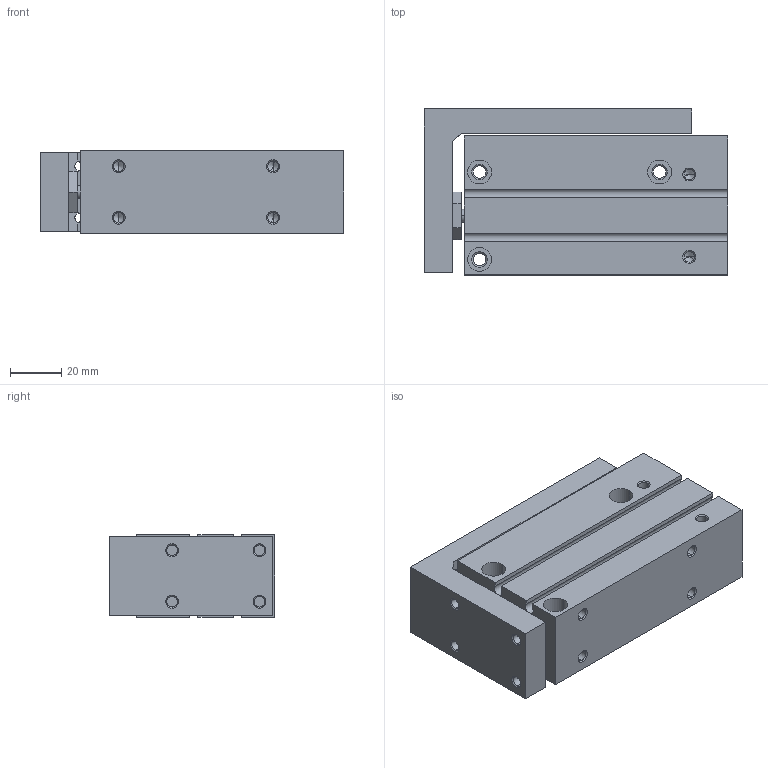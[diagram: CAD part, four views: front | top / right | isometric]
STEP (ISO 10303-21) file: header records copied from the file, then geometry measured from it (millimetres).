
FILE_DESCRIPTION (( 'STEP AP203' ), '1' );
FILE_NAME ('CXH20-50.STEP', '2020-04-16T18:30:55', ( '' ), ( '' ), 'SwSTEP 2.0', 'SolidWorks 2019', '' );
FILE_SCHEMA (( 'CONFIG_CONTROL_DESIGN' ));
Length unit declared in the file: millimetre
Products named in the file (1): CXH20-50
Bounding box: 118 x 64.5 x 32 mm (x, y, z)
Volume: 198288.4 mm3; surface area: 50086.3 mm2
Topology: 2 solids, 2 shells, 218 faces, 519 edges, 300 vertices
Faces by surface type: cone 94, cylinder 80, plane 44
Entity records: 6288 total; most frequent: DIRECTION 1147, CARTESIAN_POINT 1120, ORIENTED_EDGE 982, EDGE_CURVE 491, AXIS2_PLACEMENT_3D 443, VERTEX_POINT 300, EDGE_LOOP 267, LINE 261
